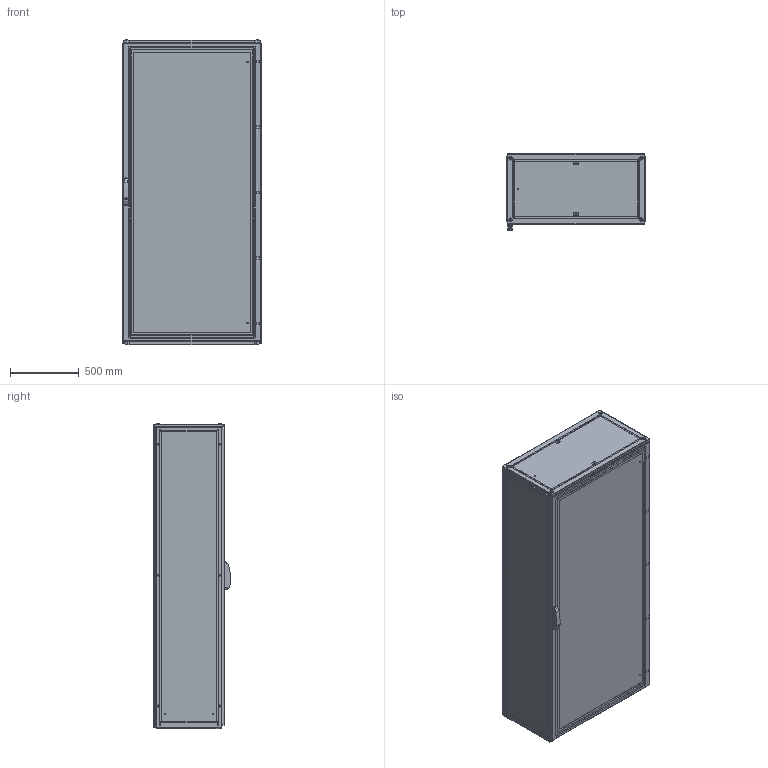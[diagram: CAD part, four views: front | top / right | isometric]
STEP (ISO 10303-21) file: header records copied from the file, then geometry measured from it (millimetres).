
FILE_DESCRIPTION(/* description */ ('STEP AP214'),/* implementation_level */ '2;1');
FILE_NAME(/* name */ 'ENUX102205PR-LOD350',/* time_stamp */ '2025-10-03T14:42:49+02:00',/* author */ ('License CC BY-ND 4.0'),/* organization */ ('CADENAS'),/* preprocessor_version */ 'ST-DEVELOPER v19.3',/* originating_system */ 'PARTsolutions',/* authorisation */ ' ');
FILE_SCHEMA (('AUTOMOTIVE_DESIGN {1 0 10303 214 3 1 1}'));
Length unit declared in the file: millimetre
Products named in the file (11): ENUX102205PR-LOD350; ENUX102205PR-LOD350_CON; ENUX102205PR-LOD350_floor1; ENUX102205PR-LOD350_floor2; Screw M12x30 architecture 350; ENUX102205PR-LOD350_side; ENUX102205PR-LOD350_top; ENUX102205PR-LOD350_back_door_r; ENUX102205PR-LOD350_back_door_l; ENUX102205PR-LOD350_door; ENUX102205PR-LOD350_handle
Assembly tree (20 placements, depth 2):
  ENUX102205PR-LOD350
    ENUX102205PR-LOD350_CON
    ENUX102205PR-LOD350_floor1  x4
    ENUX102205PR-LOD350_floor2  x4
    Screw M12x30 architecture 350  x4
    ENUX102205PR-LOD350_side  x2
    ENUX102205PR-LOD350_top
    ENUX102205PR-LOD350_back_door_r
    ENUX102205PR-LOD350_back_door_l
    ENUX102205PR-LOD350_door
    ENUX102205PR-LOD350_handle
Bounding box: 1012 x 557 x 2214.1 mm (x, y, z)
Volume: 25874466 mm3; surface area: 22436197.4 mm2
Topology: 20 solids, 20 shells, 2329 faces, 6509 edges, 4246 vertices
Faces by surface type: plane 1181, cylinder 933, cone 104, torus 94, sphere 17
Full cylindrical faces by diameter (mm): 4.5 x168, 6 x20, 6.8 x8, 7 x5, 9 x11, 12 x16, 13 x4, 14 x2, 17 x2, 18 x1, 21 x4, 28 x2
Entity records: 59763 total; most frequent: DIRECTION 10371, CARTESIAN_POINT 10319, ORIENTED_EDGE 9652, EDGE_CURVE 4826, AXIS2_PLACEMENT_3D 3729, VERTEX_POINT 3392, LINE 2913, VECTOR 2913
